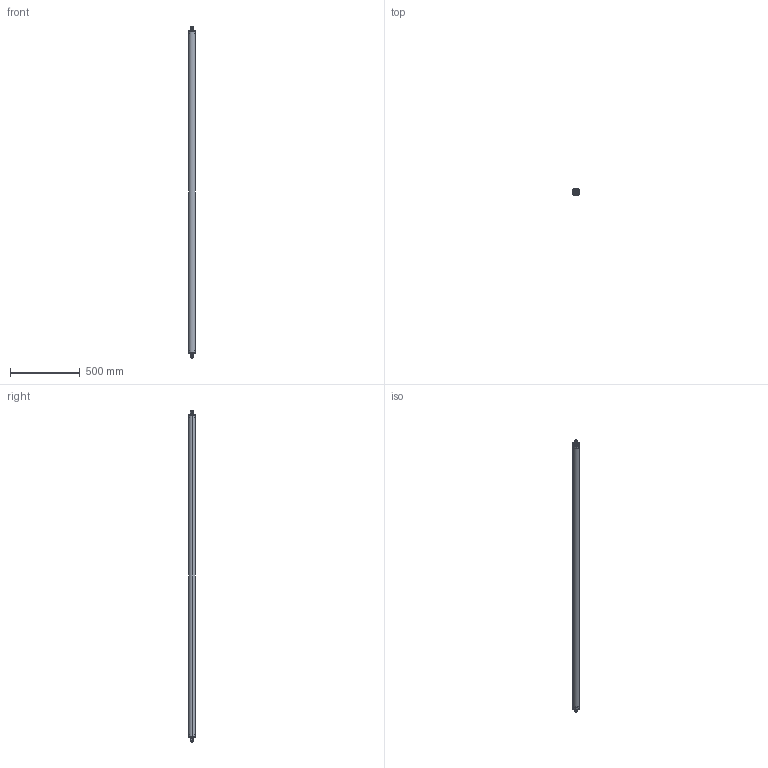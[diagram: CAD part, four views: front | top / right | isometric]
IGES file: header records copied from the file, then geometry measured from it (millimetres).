
Start section: SolidWorks IGES file using analytic representation for surfaces
Global section: file name: C:\Users\JoãoSantos\Desktop\02_3D.2D\01_2020\02_Linear\02_Tubo\01_Tubo_50\Repicagem\TUBO_50_REP_2312.IGS; native system: SolidWorks 2020; preprocessor: SolidWorks 2020; author: JoãoSantos; date: 201020.173709; units: millimetre
Bounding box: 53 x 53 x 2376 mm (x, y, z)
Surface area: 747956.3 mm2 (no closed solid volume)
Topology: 0 solids, 0 shells, 1534 faces, 13990 edges, 13930 vertices
Faces by surface type: revolution 856, bspline 678
